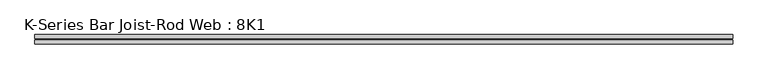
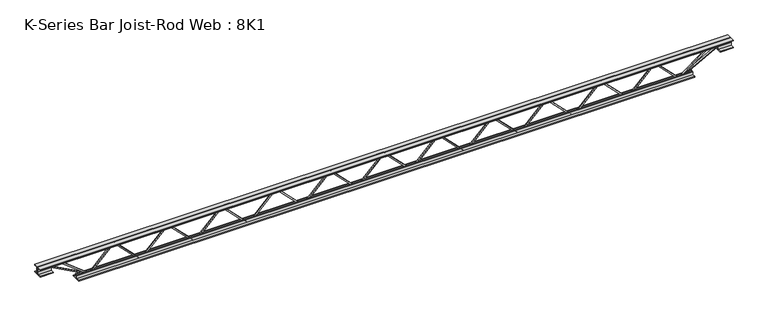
"""IFC4 building model written with IfcOpenShell, lengths in millimetres: beam geometry, K-Series Bar Joist-Rod Web : 8K1."""

from ifc_helpers import new_model, si_unit, frame, origin, place, context, project, spatial, polyline, outline, extrude, source, transform, mapped, element, save


def k_series_bar_joist_rod_web_8k1_8d9d1768(model_context):
    return source(origin(), model_context, "Body", "SweptSolid", [
        extrude(outline(polyline([(-90.4875, 1518.92), (-100.0125, 1518.92), (-100.0125, 1524.0832955), (90.4875, 1712.4666289), (90.4875, 1714.8400378), (-100.0125, 1903.2233711), (-100.0125, 1908.3866667), (-90.4875, 1908.3866667), (-90.4875, 1907.1999622), (100.0125, 1718.8166289), (100.0125, 1708.4900378), (-90.4875, 1520.1067045), (-90.4875, 1518.92)])), frame((0.0, -4.7625, 0.0), z_axis=(0.0, 1.0, 0.0), x_axis=(0.0, 0.0, 1.0)), (0.0, 0.0, 1.0), 9.525),
        extrude(outline(polyline([(-90.4875, 1090.5066667), (-100.0125, 1090.5066667), (-100.0125, 1095.6699622), (90.4875, 1284.0532955), (90.4875, 1286.4267045), (-100.0125, 1474.8100378), (-100.0125, 1479.9733333), (-90.4875, 1479.9733333), (-90.4875, 1478.7866289), (100.0125, 1290.4032955), (100.0125, 1280.0767045), (-90.4875, 1091.6933711), (-90.4875, 1090.5066667)])), frame((0.0, -4.7625, 0.0), z_axis=(0.0, 1.0, 0.0), x_axis=(0.0, 0.0, 1.0)), (0.0, 0.0, 1.0), 9.525),
        extrude(outline(polyline([(-90.4875, 662.0933333), (-100.0125, 662.0933333), (-100.0125, 667.2566289), (90.4875, 855.6399622), (90.4875, 858.0133711), (-100.0125, 1046.3967045), (-100.0125, 1051.56), (-90.4875, 1051.56), (-90.4875, 1050.3732955), (100.0125, 861.9899622), (100.0125, 851.6633711), (-90.4875, 663.2800378), (-90.4875, 662.0933333)])), frame((0.0, -4.7625, 0.0), z_axis=(0.0, 1.0, 0.0), x_axis=(0.0, 0.0, 1.0)), (0.0, 0.0, 1.0), 9.525),
        extrude(outline(polyline([(-90.4875, 233.68), (-100.0125, 233.68), (-100.0125, 238.8432955), (90.4875, 427.2266289), (90.4875, 429.6000378), (-100.0125, 617.9833711), (-100.0125, 623.1466667), (-90.4875, 623.1466667), (-90.4875, 621.9599622), (100.0125, 433.5766289), (100.0125, 423.2500378), (-90.4875, 234.8667045), (-90.4875, 233.68)])), frame((0.0, -4.7625, 0.0), z_axis=(0.0, 1.0, 0.0), x_axis=(0.0, 0.0, 1.0)), (0.0, 0.0, 1.0), 9.525),
        extrude(outline(polyline([(-90.4875, -194.7333333), (-100.0125, -194.7333333), (-100.0125, -189.5700378), (90.4875, -1.1867045), (90.4875, 1.1867045), (-100.0125, 189.5700378), (-100.0125, 194.7333333), (-90.4875, 194.7333333), (-90.4875, 193.5466289), (100.0125, 5.1632955), (100.0125, -5.1632955), (-90.4875, -193.5466289), (-90.4875, -194.7333333)])), frame((0.0, -4.7625, 0.0), z_axis=(0.0, 1.0, 0.0), x_axis=(0.0, 0.0, 1.0)), (0.0, 0.0, 1.0), 9.525),
        extrude(outline(polyline([(-90.4875, -623.1466667), (-100.0125, -623.1466667), (-100.0125, -617.9833711), (90.4875, -429.6000378), (90.4875, -427.2266289), (-100.0125, -238.8432955), (-100.0125, -233.68), (-90.4875, -233.68), (-90.4875, -234.8667045), (100.0125, -423.2500378), (100.0125, -433.5766289), (-90.4875, -621.9599622), (-90.4875, -623.1466667)])), frame((0.0, -4.7625, 0.0), z_axis=(0.0, 1.0, 0.0), x_axis=(0.0, 0.0, 1.0)), (0.0, 0.0, 1.0), 9.525),
        extrude(outline(polyline([(-90.4875, -1051.56), (-100.0125, -1051.56), (-100.0125, -1046.3967045), (90.4875, -858.0133711), (90.4875, -855.6399622), (-100.0125, -667.2566289), (-100.0125, -662.0933333), (-90.4875, -662.0933333), (-90.4875, -663.2800378), (100.0125, -851.6633711), (100.0125, -861.9899622), (-90.4875, -1050.3732955), (-90.4875, -1051.56)])), frame((0.0, -4.7625, 0.0), z_axis=(0.0, 1.0, 0.0), x_axis=(0.0, 0.0, 1.0)), (0.0, 0.0, 1.0), 9.525),
        extrude(outline(polyline([(-90.4875, -1479.9733333), (-100.0125, -1479.9733333), (-100.0125, -1474.8100378), (90.4875, -1286.4267045), (90.4875, -1284.0532955), (-100.0125, -1095.6699622), (-100.0125, -1090.5066667), (-90.4875, -1090.5066667), (-90.4875, -1091.6933711), (100.0125, -1280.0767045), (100.0125, -1290.4032955), (-90.4875, -1478.7866289), (-90.4875, -1479.9733333)])), frame((0.0, -4.7625, 0.0), z_axis=(0.0, 1.0, 0.0), x_axis=(0.0, 0.0, 1.0)), (0.0, 0.0, 1.0), 9.525),
        extrude(outline(polyline([(-90.4875, -1908.3866667), (-100.0125, -1908.3866667), (-100.0125, -1903.2233711), (90.4875, -1714.8400378), (90.4875, -1712.4666289), (-100.0125, -1524.0832955), (-100.0125, -1518.92), (-90.4875, -1518.92), (-90.4875, -1520.1067045), (100.0125, -1708.4900378), (100.0125, -1718.8166289), (-90.4875, -1907.1999622), (-90.4875, -1908.3866667)])), frame((0.0, -4.7625, 0.0), z_axis=(0.0, 1.0, 0.0), x_axis=(0.0, 0.0, 1.0)), (0.0, 0.0, 1.0), 9.525),
        extrude(outline(polyline([(-90.4875, 1947.3333333), (-100.0125, 1947.3333333), (-100.0125, 1952.4966289), (90.4875, 2140.8799622), (90.4875, 2143.2533711), (-100.0125, 2331.6367045), (-100.0125, 2336.8), (-90.4875, 2336.8), (-90.4875, 2335.6132955), (100.0125, 2147.2299622), (100.0125, 2136.9033711), (-90.4875, 1948.5200378), (-90.4875, 1947.3333333)])), frame((0.0, -4.7625, 0.0), z_axis=(0.0, 1.0, 0.0), x_axis=(0.0, 0.0, 1.0)), (0.0, 0.0, 1.0), 9.525),
        extrude(outline(polyline([(-90.4875, -2336.8), (-100.0125, -2336.8), (-100.0125, -2331.6367045), (90.4875, -2143.2533711), (90.4875, -2140.8799622), (-100.0125, -1952.4966289), (-100.0125, -1947.3333333), (-90.4875, -1947.3333333), (-90.4875, -1948.5200378), (100.0125, -2136.9033711), (100.0125, -2147.2299622), (-90.4875, -2335.6132955), (-90.4875, -2336.8)])), frame((0.0, -4.7625, 0.0), z_axis=(0.0, 1.0, 0.0), x_axis=(0.0, 0.0, 1.0)), (0.0, 0.0, 1.0), 9.525),
        extrude(outline(polyline([(4.7625, 101.6), (36.5125, 101.6), (36.5125, 95.25), (11.1125, 95.25), (11.1125, 69.85), (4.7625, 69.85), (4.7625, 101.6)])), frame((-2743.2, 0.0, 0.0), z_axis=(1.0, 0.0, 0.0), x_axis=(0.0, 1.0, 0.0)), (0.0, 0.0, 1.0), 5486.4),
        extrude(outline(polyline([(-4.7625, 101.6), (-4.7625, 69.85), (-11.1125, 69.85), (-11.1125, 95.25), (-36.5125, 95.25), (-36.5125, 101.6), (-4.7625, 101.6)])), frame((-2743.2, 0.0, 0.0), z_axis=(1.0, 0.0, 0.0), x_axis=(0.0, 1.0, 0.0)), (0.0, 0.0, 1.0), 5486.4),
        extrude(outline(polyline([(-4.7625, 38.1), (-36.5125, 38.1), (-36.5125, 44.45), (-11.1125, 44.45), (-11.1125, 69.85), (-4.7625, 69.85), (-4.7625, 38.1)])), frame((-2743.2, 0.0, 0.0), z_axis=(1.0, 0.0, 0.0), x_axis=(0.0, 1.0, 0.0)), (0.0, 0.0, 1.0), 101.6),
        extrude(outline(polyline([(36.5125, 38.1), (4.7625, 38.1), (4.7625, 69.85), (11.1125, 69.85), (11.1125, 44.45), (36.5125, 44.45), (36.5125, 38.1)])), frame((-2743.2, 0.0, 0.0), z_axis=(1.0, 0.0, 0.0), x_axis=(0.0, 1.0, 0.0)), (0.0, 0.0, 1.0), 101.6),
        extrude(outline(polyline([(4.7625, 38.1), (4.7625, 69.85), (11.1125, 69.85), (11.1125, 44.45), (36.5125, 44.45), (36.5125, 38.1), (4.7625, 38.1)])), frame((2641.6, 0.0, 0.0), z_axis=(1.0, 0.0, 0.0), x_axis=(0.0, 1.0, 0.0)), (0.0, 0.0, 1.0), 101.6),
        extrude(outline(polyline([(-4.7625, 38.1), (-36.5125, 38.1), (-36.5125, 44.45), (-11.1125, 44.45), (-11.1125, 69.85), (-4.7625, 69.85), (-4.7625, 38.1)])), frame((2641.6, 0.0, 0.0), z_axis=(1.0, 0.0, 0.0), x_axis=(0.0, 1.0, 0.0)), (0.0, 0.0, 1.0), 101.6),
        extrude(outline(polyline([(4.7625, -101.6), (4.7625, -69.85), (11.1125, -69.85), (11.1125, -95.25), (36.5125, -95.25), (36.5125, -101.6), (4.7625, -101.6)])), frame((-2438.4, 0.0, 0.0), z_axis=(1.0, 0.0, 0.0), x_axis=(0.0, 1.0, 0.0)), (0.0, 0.0, 1.0), 4876.8),
        extrude(outline(polyline([(-4.7625, -101.6), (-36.5125, -101.6), (-36.5125, -95.25), (-11.1125, -95.25), (-11.1125, -69.85), (-4.7625, -69.85), (-4.7625, -101.6)])), frame((-2438.4, 0.0, 0.0), z_axis=(1.0, 0.0, 0.0), x_axis=(0.0, 1.0, 0.0)), (0.0, 0.0, 1.0), 4876.8),
        extrude(outline(polyline([(0.0, -9.525), (0.0, 0.0), (346.6425392, 0.0), (346.6425392, -9.525), (0.0, -9.525)])), frame((-2643.8682985, 4.7625, 65.662372), z_axis=(0.47628314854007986, 0.0, 0.8792919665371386), x_axis=(0.8792919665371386, 0.0, -0.47628314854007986)), (0.0, 0.0, 1.0), 9.525),
        extrude(outline(polyline([(0.0, -9.525), (0.0, 0.0), (269.048729, 0.0), (269.048729, -9.525), (0.0, -9.525)])), frame((-2552.1588407, 4.7625, 66.0896099), z_axis=(0.6136434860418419, 0.0, 0.7895832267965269), x_axis=(0.7895832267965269, 0.0, -0.6136434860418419)), (0.0, 0.0, 1.0), 9.525),
        extrude(outline(polyline([(0.0, -9.525), (0.0, 0.0), (346.6425392, 0.0), (346.6425392, -9.525), (0.0, -9.525)])), frame((2643.8682985, -4.7625, 65.662372), z_axis=(-0.47628314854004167, 0.0, 0.8792919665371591), x_axis=(-0.8792919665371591, 0.0, -0.47628314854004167)), (0.0, 0.0, 1.0), 9.525),
        extrude(outline(polyline([(0.0, -9.525), (0.0, 0.0), (269.048729, 0.0), (269.048729, -9.525), (0.0, -9.525)])), frame((2552.1588407, -4.7625, 66.0896099), z_axis=(-0.6136434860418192, 0.0, 0.7895832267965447), x_axis=(-0.7895832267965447, 0.0, -0.6136434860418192)), (0.0, 0.0, 1.0), 9.525),
    ])


if __name__ == "__main__":
    model = new_model("IFC4")
    model_context = context("Model", 3, world=origin())
    ifc_project = project(units=[si_unit("LENGTHUNIT", "METRE", prefix="MILLI")], contexts=[model_context])
    site = spatial("IfcSite", under=ifc_project)
    building = spatial("IfcBuilding", under=site)
    placement = place(None, origin())
    k_series_bar_joist_rod_web_8k1_shape = k_series_bar_joist_rod_web_8k1_8d9d1768(model_context)
    element("IfcBeam", 1, ObjectType="K-Series Bar Joist-Rod Web : 8K1", at=placement, inside=building, context=model_context, shape_type="MappedRepresentation", body=[
        mapped(k_series_bar_joist_rod_web_8k1_shape, transform((0.0, 0.0, 0.0), x_axis=(1.0, 0.0, 0.0), y_axis=(0.0, 1.0, 0.0), z_axis=(0.0, 0.0, 1.0))),
    ])
    save(model, "model.ifc")
